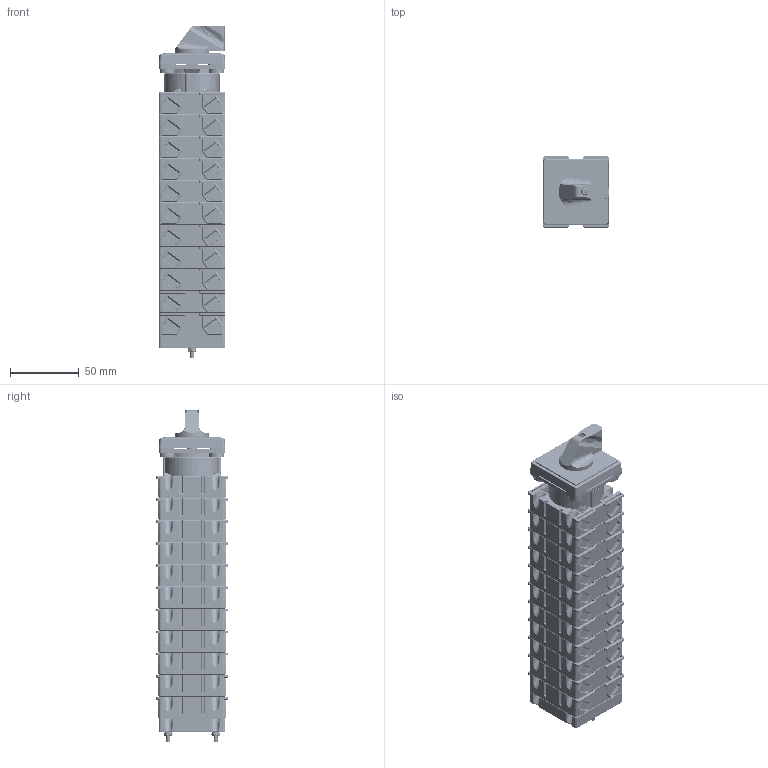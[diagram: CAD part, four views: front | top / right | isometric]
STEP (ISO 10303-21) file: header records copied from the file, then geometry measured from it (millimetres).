
FILE_DESCRIPTION (( 'STEP AP214' ), '1' );
FILE_NAME ('Ïåðåêëþ÷àòåëü 4G16, 25-XXXX-U-R114 ÃÆÈÊ.642212 11ê.STEP', '2024-07-31T08:17:35', ( '' ), ( '' ), 'SwSTEP 2.0', 'SolidWorks 2018', '' );
FILE_SCHEMA (( 'AUTOMOTIVE_DESIGN' ));
Length unit declared in the file: millimetre
Products named in the file (1): Ïåðåêëþ÷àòåëü 4G16, 25-XXXX-U-R114 ÃÆÈÊ.642212 11ê
Bounding box: 48 x 52 x 240.6 mm (x, y, z)
Volume: 448907.2 mm3; surface area: 175790 mm2
Topology: 31 solids, 119 shells, 10098 faces, 26579 edges, 16868 vertices
Faces by surface type: plane 5929, cylinder 3005, torus 510, cone 439, bspline 151, sphere 64
Entity records: 432249 total; most frequent: CARTESIAN_POINT 74187, ORIENTED_EDGE 53044, DIRECTION 49879, EDGE_CURVE 26522, VECTOR 18685, LINE 18685, VERTEX_POINT 16856, AXIS2_PLACEMENT_3D 15597
